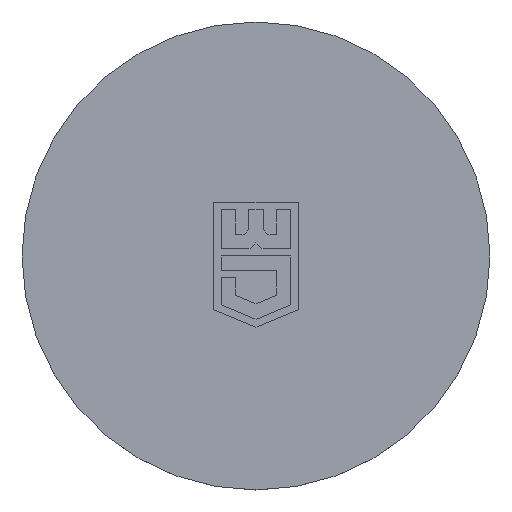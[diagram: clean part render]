
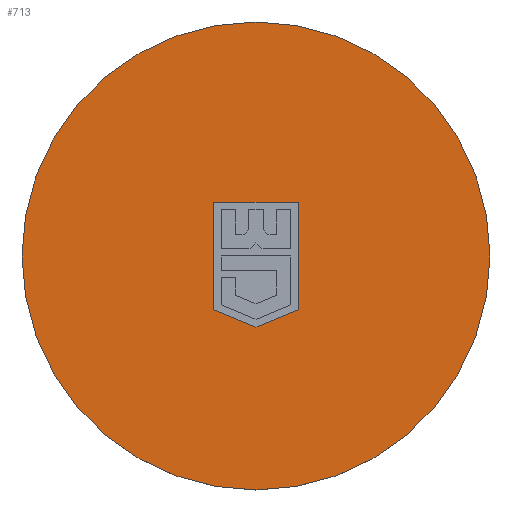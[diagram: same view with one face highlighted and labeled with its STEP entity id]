
A CAD part, top view. The second image highlights one B-rep face of the part: STEP entity #713.
In plain terms, the highlighted planar face has unit normal (0, 0, 1).
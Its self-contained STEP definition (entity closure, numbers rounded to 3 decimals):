
#673 = ORIENTED_EDGE ( 'NONE', *, *, #676, .T. ) ;
#675 = VERTEX_POINT ( 'NONE', #1202 ) ;
#676 = EDGE_CURVE ( 'NONE', #675, #719, #1201, .T. ) ;
#680 = ORIENTED_EDGE ( 'NONE', *, *, #681, .T. ) ;
#681 = EDGE_CURVE ( 'NONE', #719, #675, #1195, .T. ) ;
#682 = EDGE_LOOP ( 'NONE', ( #723, #703, #699, #695, #693 ) ) ;
#691 = EDGE_CURVE ( 'NONE', #697, #692, #1241, .T. ) ;
#692 = VERTEX_POINT ( 'NONE', #1237 ) ;
#693 = ORIENTED_EDGE ( 'NONE', *, *, #694, .T. ) ;
#694 = EDGE_CURVE ( 'NONE', #692, #704, #1236, .T. ) ;
#695 = ORIENTED_EDGE ( 'NONE', *, *, #691, .T. ) ;
#696 = EDGE_CURVE ( 'NONE', #701, #697, #1232, .T. ) ;
#697 = VERTEX_POINT ( 'NONE', #1228 ) ;
#699 = ORIENTED_EDGE ( 'NONE', *, *, #696, .T. ) ;
#700 = EDGE_CURVE ( 'NONE', #702, #701, #1226, .T. ) ;
#701 = VERTEX_POINT ( 'NONE', #1222 ) ;
#702 = VERTEX_POINT ( 'NONE', #1221 ) ;
#703 = ORIENTED_EDGE ( 'NONE', *, *, #700, .T. ) ;
#704 = VERTEX_POINT ( 'NONE', #1220 ) ;
#705 = EDGE_LOOP ( 'NONE', ( #673, #680 ) ) ;
#713 = ADVANCED_FACE ( 'NONE', ( #1086, #1085 ), #1084, .F. ) ;
#719 = VERTEX_POINT ( 'NONE', #1078 ) ;
#723 = ORIENTED_EDGE ( 'NONE', *, *, #724, .T. ) ;
#724 = EDGE_CURVE ( 'NONE', #704, #702, #1280, .T. ) ;
#1078 = CARTESIAN_POINT ( 'NONE',  ( -6.75, 0., 0. ) ) ;
#1080 = DIRECTION ( 'NONE',  ( -1., 0., 0. ) ) ;
#1081 = DIRECTION ( 'NONE',  ( 0., 0., -1. ) ) ;
#1082 = CARTESIAN_POINT ( 'NONE',  ( 0., 0., 0. ) ) ;
#1083 = AXIS2_PLACEMENT_3D ( 'NONE', #1082, #1081, #1080 ) ;
#1084 = PLANE ( 'NONE',  #1083 ) ;
#1085 = FACE_BOUND ( 'NONE', #682, .T. ) ;
#1086 = FACE_OUTER_BOUND ( 'NONE', #705, .T. ) ;
#1191 = DIRECTION ( 'NONE',  ( 1., 0., 0. ) ) ;
#1192 = DIRECTION ( 'NONE',  ( 0., 0., 1. ) ) ;
#1193 = CARTESIAN_POINT ( 'NONE',  ( 0., 0., 0. ) ) ;
#1194 = AXIS2_PLACEMENT_3D ( 'NONE', #1193, #1192, #1191 ) ;
#1195 = CIRCLE ( 'NONE', #1194, 6.75 ) ;
#1197 = DIRECTION ( 'NONE',  ( 1., 0., 0. ) ) ;
#1198 = DIRECTION ( 'NONE',  ( 0., 0., 1. ) ) ;
#1199 = CARTESIAN_POINT ( 'NONE',  ( 0., 0., 0. ) ) ;
#1200 = AXIS2_PLACEMENT_3D ( 'NONE', #1199, #1198, #1197 ) ;
#1201 = CIRCLE ( 'NONE', #1200, 6.75 ) ;
#1202 = CARTESIAN_POINT ( 'NONE',  ( 6.75, 0., 0. ) ) ;
#1220 = CARTESIAN_POINT ( 'NONE',  ( 0., -2.052, 0. ) ) ;
#1221 = CARTESIAN_POINT ( 'NONE',  ( -1.215, -1.549, 0. ) ) ;
#1222 = CARTESIAN_POINT ( 'NONE',  ( -1.215, 1.548, 0. ) ) ;
#1223 = DIRECTION ( 'NONE',  ( 0., 1., 0. ) ) ;
#1224 = VECTOR ( 'NONE', #1223, 1000. ) ;
#1225 = CARTESIAN_POINT ( 'NONE',  ( -1.215, -1.549, 0. ) ) ;
#1226 = LINE ( 'NONE', #1225, #1224 ) ;
#1228 = CARTESIAN_POINT ( 'NONE',  ( 1.215, 1.548, 0. ) ) ;
#1229 = DIRECTION ( 'NONE',  ( 1., 0., 0. ) ) ;
#1230 = VECTOR ( 'NONE', #1229, 1000. ) ;
#1231 = CARTESIAN_POINT ( 'NONE',  ( -1.215, 1.548, 0. ) ) ;
#1232 = LINE ( 'NONE', #1231, #1230 ) ;
#1233 = DIRECTION ( 'NONE',  ( -0.924, -0.383, 0. ) ) ;
#1234 = VECTOR ( 'NONE', #1233, 1000. ) ;
#1235 = CARTESIAN_POINT ( 'NONE',  ( 0., -2.052, 0. ) ) ;
#1236 = LINE ( 'NONE', #1235, #1234 ) ;
#1237 = CARTESIAN_POINT ( 'NONE',  ( 1.215, -1.549, 0. ) ) ;
#1238 = DIRECTION ( 'NONE',  ( 0., -1., 0. ) ) ;
#1239 = VECTOR ( 'NONE', #1238, 1000. ) ;
#1240 = CARTESIAN_POINT ( 'NONE',  ( 1.215, 1.548, 0. ) ) ;
#1241 = LINE ( 'NONE', #1240, #1239 ) ;
#1277 = DIRECTION ( 'NONE',  ( -0.924, 0.383, 0. ) ) ;
#1278 = VECTOR ( 'NONE', #1277, 1000. ) ;
#1279 = CARTESIAN_POINT ( 'NONE',  ( 0., -2.052, 0. ) ) ;
#1280 = LINE ( 'NONE', #1279, #1278 ) ;
